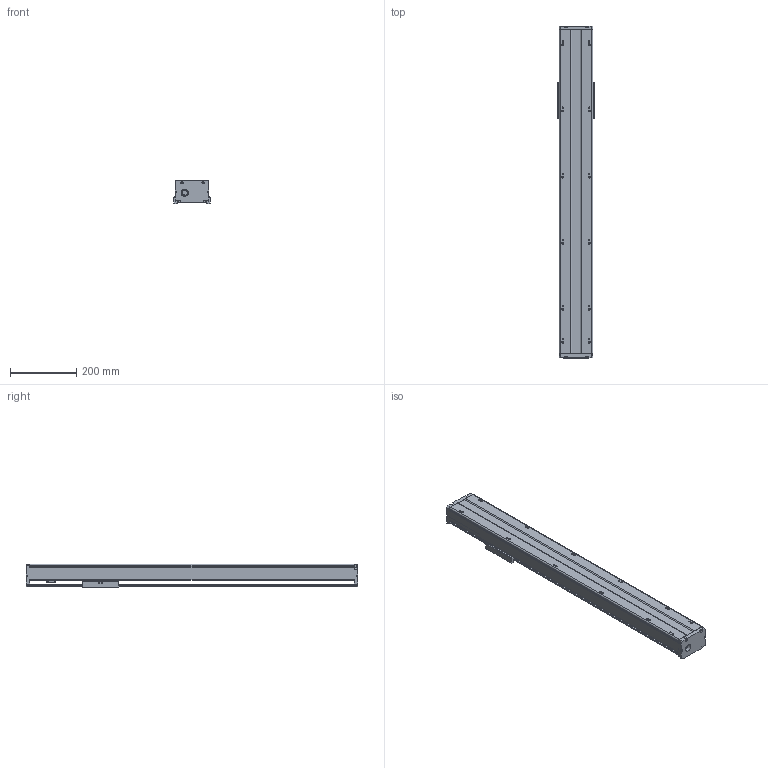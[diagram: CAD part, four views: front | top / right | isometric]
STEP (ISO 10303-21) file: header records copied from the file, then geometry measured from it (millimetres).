
FILE_DESCRIPTION(/* description */ (''),/* implementation_level */ '2;1');
FILE_NAME(/* name */ 'TKA100-750A1F0_asm1.stp',/* time_stamp */ '2017-02-20T16:22:52+08:00',/* author */ (''),/* organization */ (''),/* preprocessor_version */ 'ST-DEVELOPER v15',/* originating_system */ 'SIEMENS PLM Software NX 8.5',/* authorisation */ '');
FILE_SCHEMA (('AUTOMOTIVE_DESIGN { 1 0 10303 214 3 1 1 1 }'));
Length unit declared in the file: millimetre
Products named in the file (3): 200-02; 200-01; TKA100-750A1F0_asm1_stp
Assembly tree (2 placements, depth 2):
  TKA100-750A1F0_asm1_stp
    200-01
    200-02
Bounding box: 110 x 1004 x 71 mm (x, y, z)
Volume: 2097549.3 mm3; surface area: 694934.4 mm2
Topology: 2 solids, 8 shells, 695 faces, 1850 edges, 1209 vertices
Faces by surface type: cylinder 273, plane 259, cone 110, torus 27, bspline 26
Full cylindrical faces by diameter (mm): 2.5 x6, 2.6 x8, 3.3 x8, 3.4 x8, 3.8 x4, 4.2 x21, 4.3 x4, 4.5 x4, 5 x1, 5.5 x20, 6.6 x4, 8 x5, 9 x4, 10 x12, 11 x4, 12 x6, 12.05 x2, 15.3 x1, 15.4 x1, 16 x1, 17 x2, 18 x1, 22 x1, 24 x1, 28 x5, 30 x1
Entity records: 26048 total; most frequent: CARTESIAN_POINT 9856, DIRECTION 3307, ORIENTED_EDGE 3080, EDGE_CURVE 1540, AXIS2_PLACEMENT_3D 1327, VERTEX_POINT 1133, EDGE_LOOP 1018, ADVANCED_FACE 695
